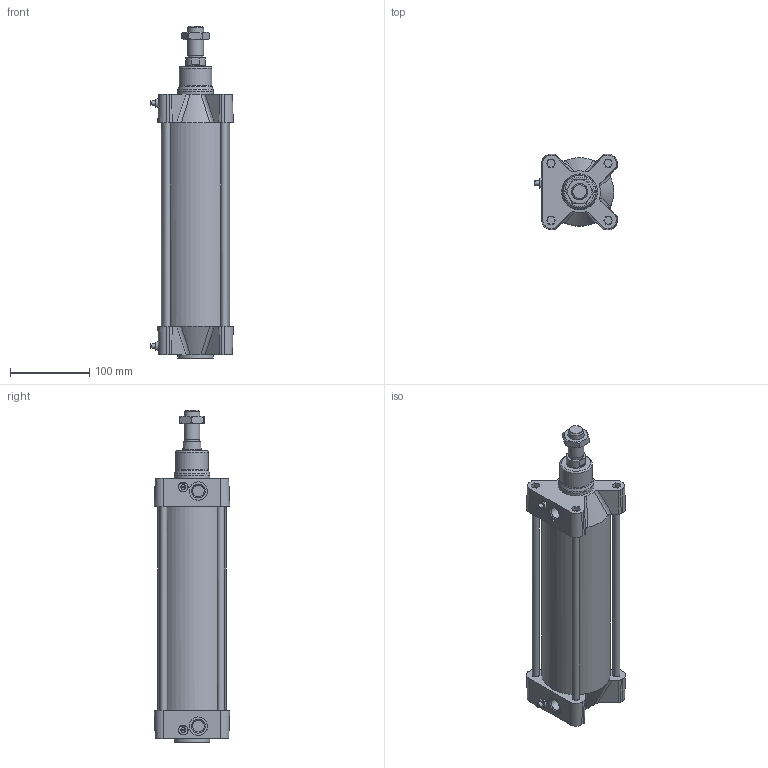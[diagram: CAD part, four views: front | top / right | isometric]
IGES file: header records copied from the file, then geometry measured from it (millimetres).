
Global section: file name: 1393_080_0200_01; native system: Autodesk Inventor 2014; preprocessor: unknown; author: A. Manieri; date: 20151130.150754; units: millimetre
Bounding box: 104 x 95 x 418 mm (x, y, z)
Volume: 1190982.3 mm3; surface area: 283684.7 mm2
Topology: 3 solids, 5 shells, 233 faces, 578 edges, 377 vertices
Faces by surface type: bspline 233
